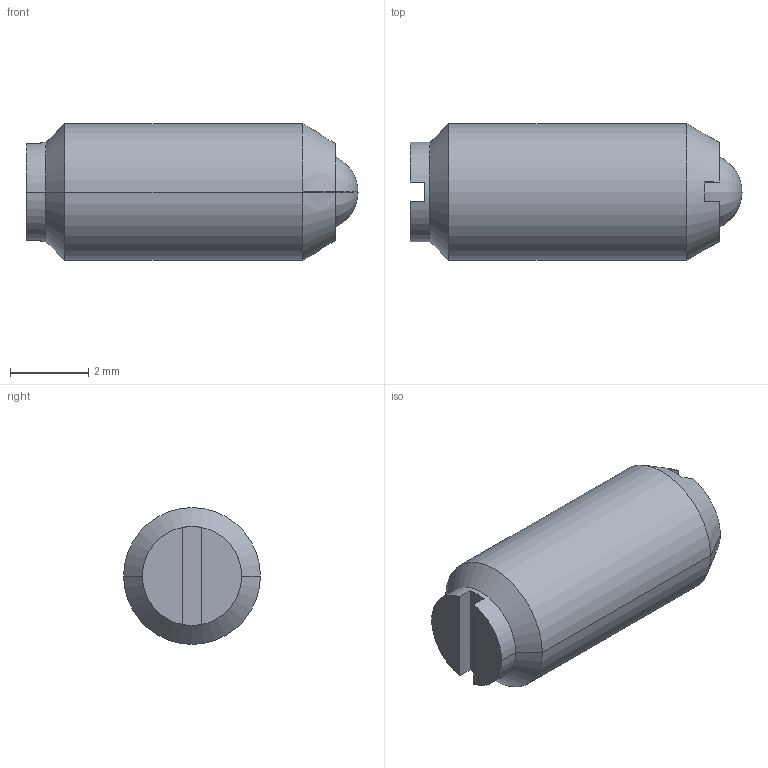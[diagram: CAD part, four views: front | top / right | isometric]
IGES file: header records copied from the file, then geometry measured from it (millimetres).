
Start section:  PTC IGES file: b48-3d.igs
Global section: file name: b48-3d.igs; native system: Pro/ENGINEER by Parametric Technology Corporation; preprocessor: 2002350; author: chant; organization: Unknown; date: 061026.155203; units: inch
Bounding box: 8.51 x 3.51 x 3.51 mm (x, y, z)
Surface area: 122.5 mm2 (no closed solid volume)
Topology: 0 solids, 0 shells, 27 faces, 193 edges, 241 vertices
Faces by surface type: revolution 17, bspline 10
